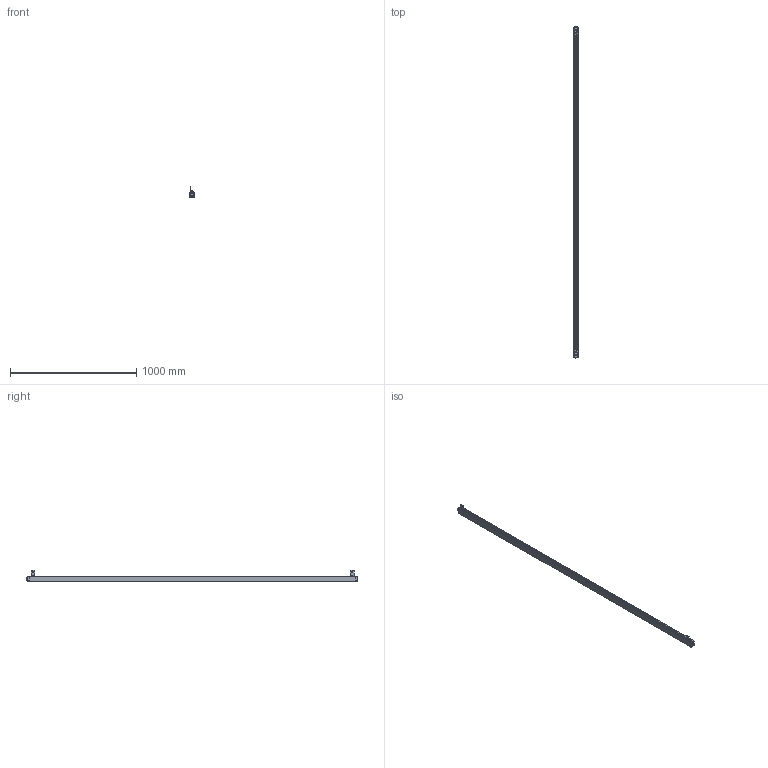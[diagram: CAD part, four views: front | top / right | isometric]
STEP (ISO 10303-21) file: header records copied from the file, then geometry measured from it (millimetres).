
FILE_DESCRIPTION((''),'2;1');
FILE_NAME('ESCL-00_ASM','2021-07-17T11:18:46',('18720616900'),(''),'CREO PARAMETRIC BY PTC INC, 2019010','CREO PARAMETRIC BY PTC INC, 2019010','');
FILE_SCHEMA(('CONFIG_CONTROL_DESIGN'));
Products named in the file (12): ESCL-00; ESCL-3-SOLID1000; ESCL-4-SOLID1000; HKCT1_-4-SOLID1; L10001; M6-8--0001; M6-1--00; M6-1-00; 00; M6-80001_ASM; L1--0001_ASM; ESCL-00_ASM
Assembly tree (12 placements, depth 4):
  ESCL-00_ASM
    ESCL-00
    ESCL-3-SOLID1000
    ESCL-4-SOLID1000
    HKCT1_-4-SOLID1
    L1--0001_ASM  x2
      L10001
      M6-80001_ASM
        M6-8--0001
        M6-1--00
        M6-1-00
        00
Bounding box: 36.1 x 2625.1 x 91.11 mm (x, y, z)
Volume: 3757475.7 mm3; surface area: 535890.4 mm2
Topology: 14 solids, 14 shells, 625 faces, 1645 edges, 1070 vertices
Faces by surface type: plane 226, cylinder 208, cone 78, bspline 66, torus 47
Entity records: 76177 total; most frequent: CARTESIAN_POINT 63991, ORIENTED_EDGE 2664, DIRECTION 2275, EDGE_CURVE 1332, VERTEX_POINT 872, AXIS2_PLACEMENT_3D 816, VECTOR 643, LINE 643
